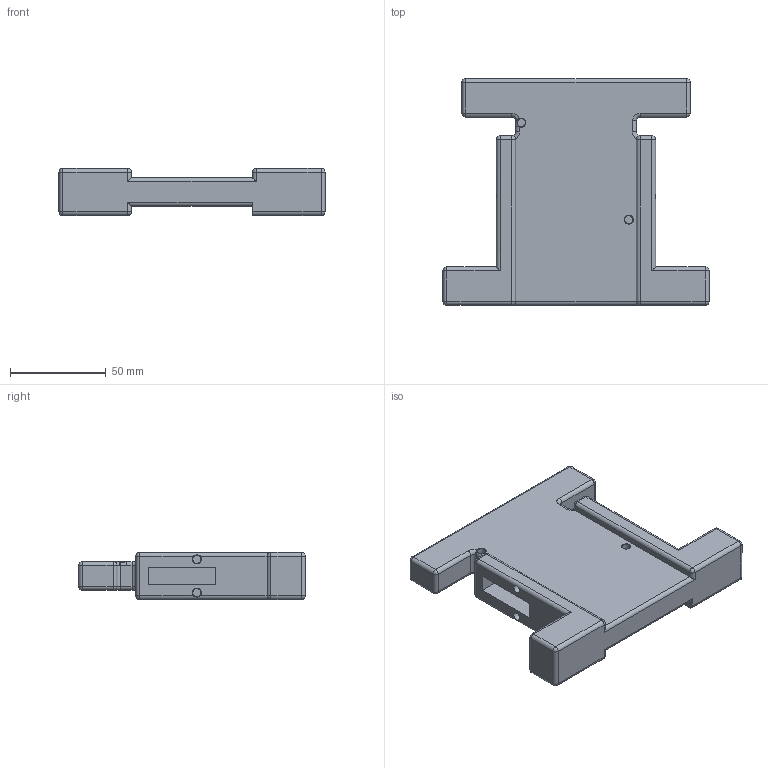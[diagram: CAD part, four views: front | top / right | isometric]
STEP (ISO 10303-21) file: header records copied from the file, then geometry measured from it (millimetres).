
FILE_DESCRIPTION(/* description */ (''),/* implementation_level */ '2;1');
FILE_NAME(/* name */ 'Final Project Cad.step',/* time_stamp */ '2026-04-23T17:42:22+03:00',/* author */ (''),/* organization */ (''),/* preprocessor_version */ 'ST-DEVELOPER v20.1',/* originating_system */ 'Autodesk Translation Framework v14.24.0.0',/* authorisation */ '');
FILE_SCHEMA (('AUTOMOTIVE_DESIGN { 1 0 10303 214 3 1 1 }'));
Length unit declared in the file: millimetre
Products named in the file (2): Final Project Cad; Component1
Assembly tree (1 placements, depth 2):
  Final Project Cad
    Component1
Bounding box: 138.6 x 118.15 x 24.5 mm (x, y, z)
Volume: 189952.5 mm3; surface area: 38550.6 mm2
Topology: 1 solids, 1 shells, 167 faces, 355 edges, 199 vertices
Faces by surface type: cylinder 72, plane 48, sphere 26, cone 12, torus 9
Full cylindrical faces by diameter (mm): 3.306 x3, 3.326 x1, 4.3 x8
Entity records: 4555 total; most frequent: CARTESIAN_POINT 850, DIRECTION 841, ORIENTED_EDGE 710, EDGE_CURVE 355, AXIS2_PLACEMENT_3D 331, VERTEX_POINT 199, LINE 179, VECTOR 179
